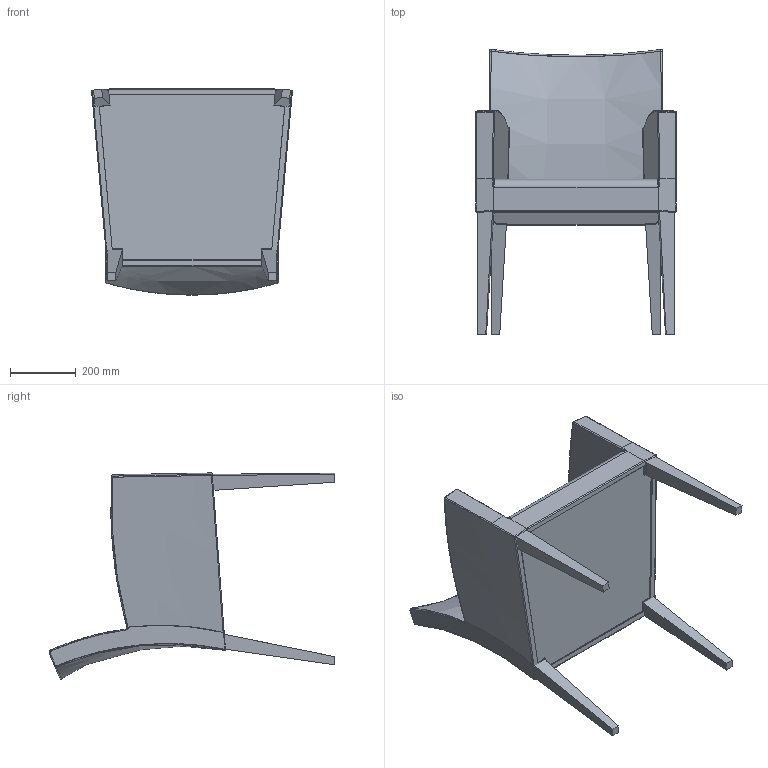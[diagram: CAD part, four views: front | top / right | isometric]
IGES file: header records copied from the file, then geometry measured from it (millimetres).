
Start section: SolidWorks IGES file using analytic representation for surfaces
Global section: file name: C:\Users\Adao\Documents\Trab Adao\Desenho técnico PRODUÇÃO\J M S\CASSIS\Linha CASSIS (sat)\CADEIRÃO M-14 C.IGS; native system: SolidWorks 2012; preprocessor: SolidWorks 2012; author: Adao; date: 121027.101009; units: millimetre
Bounding box: 612.35 x 870.04 x 628.33 mm (x, y, z)
Surface area: 2575938.7 mm2 (no closed solid volume)
Topology: 0 solids, 0 shells, 173 faces, 1546 edges, 1538 vertices
Faces by surface type: bspline 136, revolution 37
